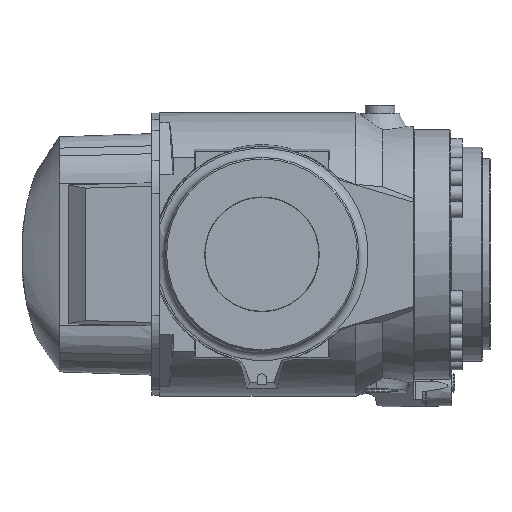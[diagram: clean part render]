
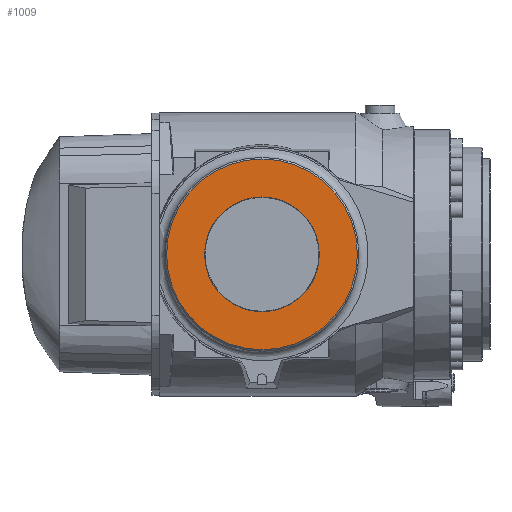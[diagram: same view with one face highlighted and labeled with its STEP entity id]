
A CAD part, front view. The second image highlights one B-rep face of the part: STEP entity #1009.
In plain terms, the highlighted planar face has unit normal (0, -1, 0).
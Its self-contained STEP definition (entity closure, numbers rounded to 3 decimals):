
#98 = EDGE_CURVE ( 'NONE', #10212, #10212, #13356, .T. ) ;
#294 = AXIS2_PLACEMENT_3D ( 'NONE', #9359, #3977, #10776 ) ;
#425 = EDGE_CURVE ( 'NONE', #12397, #12397, #10659, .T. ) ;
#536 = CARTESIAN_POINT ( 'NONE',  ( 2819.5, -91., 1940. ) ) ;
#802 = CARTESIAN_POINT ( 'NONE',  ( 2782.5, -91., 1940. ) ) ;
#1009 = ADVANCED_FACE ( 'NONE', ( #7439, #13954 ), #1865, .T. ) ;
#1033 = EDGE_LOOP ( 'NONE', ( #5067 ) ) ;
#1789 = DIRECTION ( 'NONE',  ( 0., -1., 0. ) ) ;
#1865 = PLANE ( 'NONE',  #294 ) ;
#2910 = CARTESIAN_POINT ( 'NONE',  ( 2844., -91., 1940. ) ) ;
#2989 = DIRECTION ( 'NONE',  ( 1., 0., 0. ) ) ;
#3395 = DIRECTION ( 'NONE',  ( 0., -1., 0. ) ) ;
#3638 = AXIS2_PLACEMENT_3D ( 'NONE', #4317, #3395, #4531 ) ;
#3977 = DIRECTION ( 'NONE',  ( 0., -1., 0. ) ) ;
#4317 = CARTESIAN_POINT ( 'NONE',  ( 2782.5, -91., 1940. ) ) ;
#4531 = DIRECTION ( 'NONE',  ( 1., 0., 0. ) ) ;
#5067 = ORIENTED_EDGE ( 'NONE', *, *, #98, .F. ) ;
#7439 = FACE_OUTER_BOUND ( 'NONE', #12774, .T. ) ;
#9359 = CARTESIAN_POINT ( 'NONE',  ( 2782.5, -91., 1940. ) ) ;
#9594 = ORIENTED_EDGE ( 'NONE', *, *, #425, .T. ) ;
#10212 = VERTEX_POINT ( 'NONE', #536 ) ;
#10659 = CIRCLE ( 'NONE', #12016, 61.5 ) ;
#10776 = DIRECTION ( 'NONE',  ( 1., 0., 0. ) ) ;
#12016 = AXIS2_PLACEMENT_3D ( 'NONE', #802, #1789, #2989 ) ;
#12397 = VERTEX_POINT ( 'NONE', #2910 ) ;
#12774 = EDGE_LOOP ( 'NONE', ( #9594 ) ) ;
#13356 = CIRCLE ( 'NONE', #3638, 37. ) ;
#13954 = FACE_BOUND ( 'NONE', #1033, .T. ) ;
